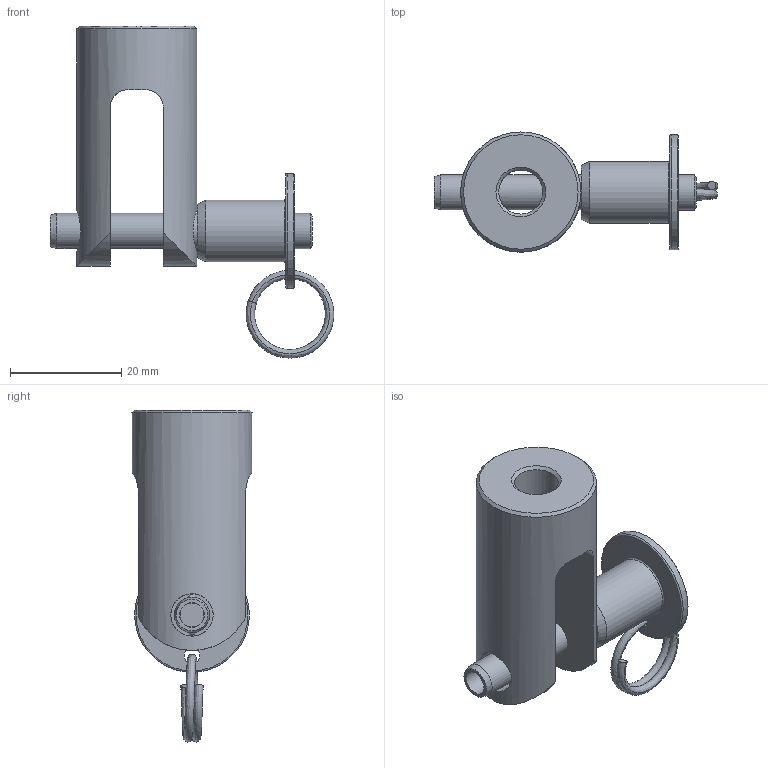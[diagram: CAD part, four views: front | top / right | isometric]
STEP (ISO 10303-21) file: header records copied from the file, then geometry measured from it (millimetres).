
FILE_DESCRIPTION((''),'2;1');
FILE_NAME('F:\CAD files\Itr\3D MARKETING MODELS\GRIPS\G1077\G1077.stp','2017-04-20T11:49:59',('mlampen'),(''),'Autodesk Inventor 2010','Autodesk Inventor 2010','');
FILE_SCHEMA(('AUTOMOTIVE_DESIGN { 1 0 10303 214 1 1 1 1 }'));
Length unit declared in the file: inch
Products named in the file (3): Assembly1; Part2; Part4
Assembly tree (2 placements, depth 2):
  Assembly1
    Part2
    Part4
Bounding box: 50.96 x 21.59 x 59.66 mm (x, y, z)
Volume: 11344.5 mm3; surface area: 7875.2 mm2
Topology: 6 solids, 6 shells, 59 faces, 132 edges, 88 vertices
Faces by surface type: cylinder 21, plane 18, sphere 6, cone 6, bspline 6, torus 2
Full cylindrical faces by diameter (mm): 2.832 x1, 4.238 x1, 4.273 x1, 4.391 x1, 4.426 x1, 6.312 x1, 6.35 x3, 6.502 x1, 7.62 x1, 7.925 x1, 11.113 x1, 20.638 x1, 21.59 x1
Entity records: 2186 total; most frequent: CARTESIAN_POINT 973, DIRECTION 230, ORIENTED_EDGE 176, AXIS2_PLACEMENT_3D 110, EDGE_LOOP 110, EDGE_CURVE 88, VERTEX_POINT 78, FACE_OUTER_BOUND 59
